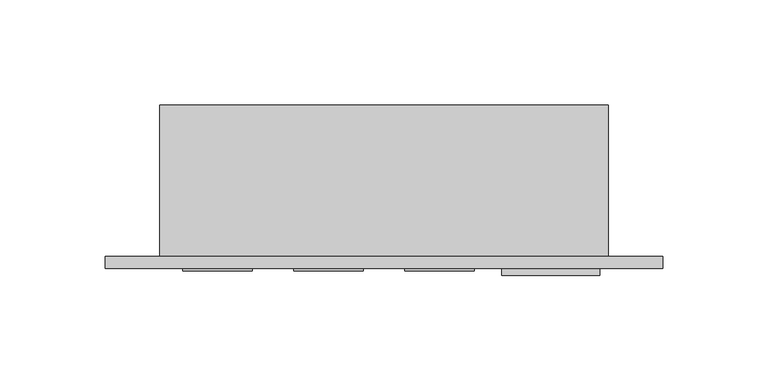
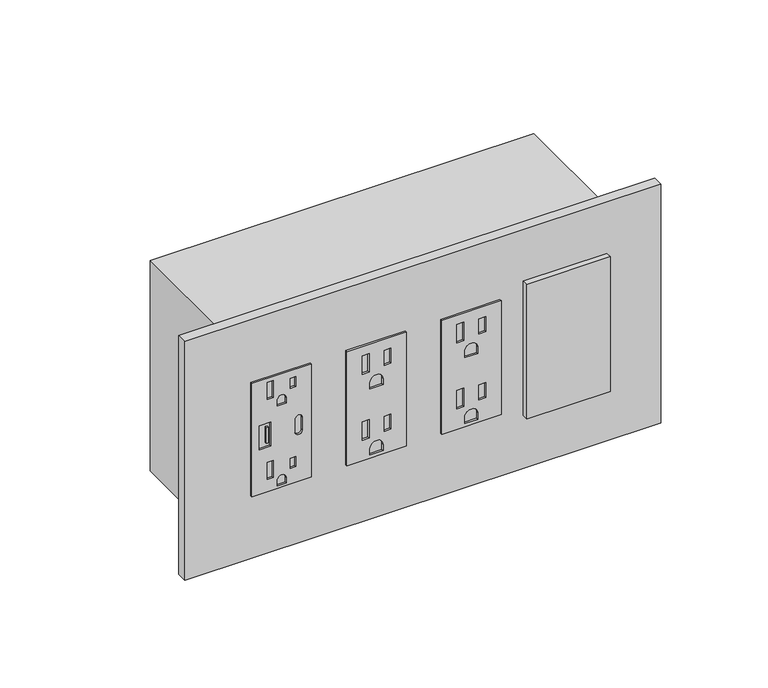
"""IFC4 building model written with IfcOpenShell, lengths in millimetres: proxy geometry, Electrical-Teknion-EPDMQ_Vertical_Power_Data_Quad-R2019 : PD Vertical Module - Quad 15 Amp USB (A+C) & 15 Amp Standard."""

from ifc_helpers import new_model, si_unit, point, frame, frame_2d, origin, place, context, project, spatial, polyline, circle_curve, trimmed, segment, composite_curve, outline, extrude, source, transform, mapped, element, save


def electrical_fixtures_258e8735(model_context):
    return source(origin(), model_context, "Body", "SweptSolid", [
        extrude(outline(polyline([(414.274, 44.0944), (414.274, 11.0998), (347.726, 11.0998), (347.726, 44.0944), (414.274, 44.0944)]), holes=[polyline([(411.8356, 22.9616), (402.0080649, 22.9616), (402.0080649, 19.6342), (411.8356, 19.6342), (411.8356, 22.9616)]), polyline([(409.8301324, 35.41014), (404.0135324, 35.41014), (404.0135324, 32.4358), (409.8301324, 32.4358), (409.8301324, 35.41014)]), composite_curve([segment(polyline([(396.24, 30.0609), (396.24, 25.1333), (399.3388, 25.1333)]), True, "CONTINUOUS"), segment(trimmed(circle_curve(frame_2d((399.3388, 27.5971)), 2.4638), [point((399.3388, 25.1333))], [point((399.3388, 30.0609))], True, "CARTESIAN"), True, "CONTINUOUS"), segment(polyline([(399.3388, 30.0609), (396.24, 30.0609)]), True, "CONTINUOUS")], self_intersect=False), polyline([(364.8456, 22.9616), (355.0180649, 22.9616), (355.0180649, 19.6342), (364.8456, 19.6342), (364.8456, 22.9616)]), polyline([(362.8401324, 35.41014), (357.0235324, 35.41014), (357.0235324, 32.4358), (362.8401324, 32.4358), (362.8401324, 35.41014)]), composite_curve([segment(polyline([(349.25, 30.0609), (349.25, 25.1333), (352.3488, 25.1333)]), True, "CONTINUOUS"), segment(trimmed(circle_curve(frame_2d((352.3488, 27.5971)), 2.4638), [point((352.3488, 25.1333))], [point((352.3488, 30.0609))], True, "CARTESIAN"), True, "CONTINUOUS"), segment(polyline([(352.3488, 30.0609), (349.25, 30.0609)]), True, "CONTINUOUS")], self_intersect=False), polyline([(388.0485, 21.59), (373.9515, 21.59), (373.9515, 15.0876), (388.0485, 15.0876), (388.0485, 21.59)]), composite_curve([segment(trimmed(circle_curve(frame_2d((377.2154, 37.1348)), 1.905), [point((377.2154, 39.0398))], [point((377.2154, 35.2298))], True, "CARTESIAN"), True, "CONTINUOUS"), segment(polyline([(377.2154, 35.2298), (384.7846, 35.2298)]), True, "CONTINUOUS"), segment(trimmed(circle_curve(frame_2d((384.7846, 37.1348)), 1.905), [point((384.7846, 35.2298))], [point((384.7846, 39.0398))], True, "CARTESIAN"), True, "CONTINUOUS"), segment(polyline([(384.7846, 39.0398), (377.2154, 39.0398)]), True, "CONTINUOUS")], self_intersect=False)]), frame((0.0, -6.9294746, 0.0), z_axis=(0.0, 1.0, 0.0), x_axis=(0.0, 0.0, 1.0)), (0.0, 0.0, 1.0), 1.0366746),
        extrude(outline(polyline([(20.0803959, -6.9294746), (18.9613268, -6.9294746), (18.9613268, -5.8928), (20.0803959, -5.8928), (20.0803959, -6.9294746)])), frame((0.0, 0.0, 376.2998162), z_axis=(0.0, 0.0, 1.0), x_axis=(1.0, 0.0, 0.0)), (0.0, 0.0, 1.0), 9.2470447),
        extrude(outline(polyline([(414.4772, 149.4282), (414.4772, 116.4336), (347.5228, 116.4336), (347.5228, 149.4282), (414.4772, 149.4282)]), holes=[polyline([(409.0924, 128.778), (398.272, 128.778), (398.272, 124.9426), (409.0924, 124.9426), (409.0924, 128.778)]), polyline([(408.1145, 140.9446), (399.2499, 140.9446), (399.2499, 137.1092), (408.1145, 137.1092), (408.1145, 140.9446)]), composite_curve([segment(polyline([(388.0866, 136.5631), (388.0866, 129.2987), (391.7188, 129.2987)]), True, "CONTINUOUS"), segment(trimmed(circle_curve(frame_2d((391.7188, 132.9309)), 3.6322), [point((391.7188, 129.2987))], [point((391.7188, 136.5631))], True, "CARTESIAN"), True, "CONTINUOUS"), segment(polyline([(391.7188, 136.5631), (388.0866, 136.5631)]), True, "CONTINUOUS")], self_intersect=False), polyline([(370.3574, 128.778), (359.537, 128.778), (359.537, 124.9426), (370.3574, 124.9426), (370.3574, 128.778)]), polyline([(369.3795, 140.9446), (360.5149, 140.9446), (360.5149, 137.1092), (369.3795, 137.1092), (369.3795, 140.9446)]), composite_curve([segment(polyline([(349.3516, 136.5631), (349.3516, 129.2987), (352.9838, 129.2987)]), True, "CONTINUOUS"), segment(trimmed(circle_curve(frame_2d((352.9838, 132.9309)), 3.6322), [point((352.9838, 129.2987))], [point((352.9838, 136.5631))], True, "CARTESIAN"), True, "CONTINUOUS"), segment(polyline([(352.9838, 136.5631), (349.3516, 136.5631)]), True, "CONTINUOUS")], self_intersect=False)]), frame((0.0, -6.9294746, 0.0), z_axis=(0.0, 1.0, 0.0), x_axis=(0.0, 0.0, 1.0)), (0.0, 0.0, 1.0), 1.0366746),
        extrude(outline(polyline([(414.4772, 96.7613), (414.4772, 63.7667), (347.5228, 63.7667), (347.5228, 96.7613), (414.4772, 96.7613)]), holes=[polyline([(409.0924, 76.1111), (398.272, 76.1111), (398.272, 72.2757), (409.0924, 72.2757), (409.0924, 76.1111)]), polyline([(408.1145, 88.2777), (399.2499, 88.2777), (399.2499, 84.4423), (408.1145, 84.4423), (408.1145, 88.2777)]), composite_curve([segment(polyline([(388.0866, 83.8962), (388.0866, 76.6318), (391.7188, 76.6318)]), True, "CONTINUOUS"), segment(trimmed(circle_curve(frame_2d((391.7188, 80.264)), 3.6322), [point((391.7188, 76.6318))], [point((391.7188, 83.8962))], True, "CARTESIAN"), True, "CONTINUOUS"), segment(polyline([(391.7188, 83.8962), (388.0866, 83.8962)]), True, "CONTINUOUS")], self_intersect=False), polyline([(370.3574, 76.1111), (359.537, 76.1111), (359.537, 72.2757), (370.3574, 72.2757), (370.3574, 76.1111)]), polyline([(369.3795, 88.2777), (360.5149, 88.2777), (360.5149, 84.4423), (369.3795, 84.4423), (369.3795, 88.2777)]), composite_curve([segment(polyline([(349.3516, 83.8962), (349.3516, 76.6318), (352.9838, 76.6318)]), True, "CONTINUOUS"), segment(trimmed(circle_curve(frame_2d((352.9838, 80.264)), 3.6322), [point((352.9838, 76.6318))], [point((352.9838, 83.8962))], True, "CARTESIAN"), True, "CONTINUOUS"), segment(polyline([(352.9838, 83.8962), (349.3516, 83.8962)]), True, "CONTINUOUS")], self_intersect=False)]), frame((0.0, -6.9294746, 0.0), z_axis=(0.0, 1.0, 0.0), x_axis=(0.0, 0.0, 1.0)), (0.0, 0.0, 1.0), 1.0366746),
        extrude(outline(polyline([(162.3314, -5.8928), (208.8642, -5.8928), (208.8642, -9.0678), (162.3314, -9.0678), (162.3314, -5.8928)])), frame((0.0, 0.0, 341.7922742), z_axis=(0.0, 0.0, 1.0), x_axis=(1.0, 0.0, 0.0)), (0.0, 0.0, 1.0), 79.0448),
        extrude(outline(polyline([(-25.6794, 0.0), (238.7092, 0.0), (238.7092, -5.8928), (-25.6794, -5.8928), (-25.6794, 0.0)])), frame((0.0, 0.0, 310.8198), z_axis=(0.0, 0.0, 1.0), x_axis=(1.0, 0.0, 0.0)), (0.0, 0.0, 1.0), 140.3604),
        extrude(outline(polyline([(213.0298, 0.0), (0.0, 0.0), (0.0, 71.7296), (213.0298, 71.7296), (213.0298, 0.0)])), frame((0.0, 0.0, 319.2526), z_axis=(0.0, 0.0, 1.0), x_axis=(1.0, 0.0, 0.0)), (0.0, 0.0, 1.0), 123.4948),
    ])


if __name__ == "__main__":
    model = new_model("IFC4")
    model_context = context("Model", 3, world=origin())
    ifc_project = project(units=[si_unit("LENGTHUNIT", "METRE", prefix="MILLI")], contexts=[model_context])
    site = spatial("IfcSite", under=ifc_project)
    building = spatial("IfcBuilding", under=site)
    placement = place(None, origin())
    electrical_fixtures_shape = electrical_fixtures_258e8735(model_context)
    element("IfcBuildingElementProxy", 1, Name="Electrical-Teknion-EPDMQ_Vertical_Power_Data_Quad-R2019 : PD Vertical Module - Quad 15 Amp USB (A+C) & 15 Amp Standard", ObjectType="Electrical-Teknion-EPDMQ_Vertical_Power_Data_Quad-R2019 : PD Vertical Module - Quad 15 Amp USB (A+C) & 15 Amp Standard", at=placement, inside=building, context=model_context, shape_type="MappedRepresentation", body=[
        mapped(electrical_fixtures_shape, transform((0.0, 0.0, 0.0), x_axis=(1.0, 0.0, 0.0), y_axis=(0.0, 1.0, 0.0), z_axis=(0.0, 0.0, 1.0))),
    ])
    save(model, "model.ifc")
